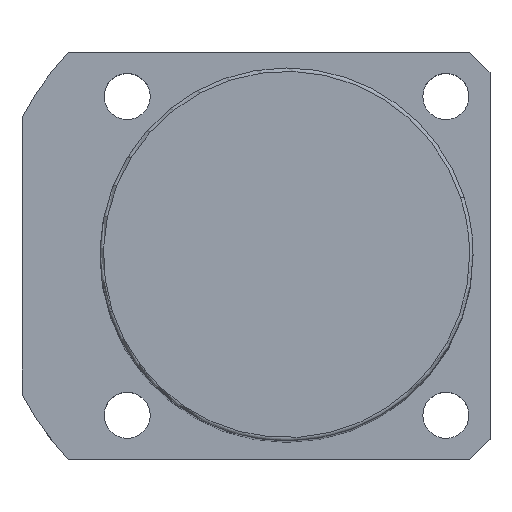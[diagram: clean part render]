
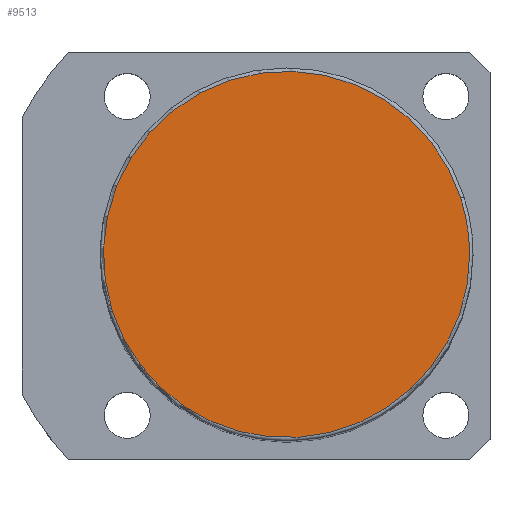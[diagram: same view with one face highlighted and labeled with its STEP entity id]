
A CAD part, top view. The second image highlights one B-rep face of the part: STEP entity #9513.
In plain terms, the highlighted planar face has unit normal (0, 0, 1).
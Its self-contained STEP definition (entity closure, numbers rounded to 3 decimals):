
#9479=CARTESIAN_POINT('',(27.0,0.0,131.0));
#9480=VERTEX_POINT('',#9479);
#9481=CARTESIAN_POINT('',(25.679,8.343,131.0));
#9482=VERTEX_POINT('',#9481);
#9483=CARTESIAN_POINT('',(0.0,0.0,131.0));
#9484=DIRECTION('',(0.0,0.0,1.0));
#9485=DIRECTION('',(1.0,0.0,0.0));
#9486=AXIS2_PLACEMENT_3D('',#9483,#9484,#9485);
#9487=CIRCLE('',#9486,27.0);
#9488=EDGE_CURVE('no 4578',#9480,#9482,#9487,.T.);
#9489=ORIENTED_EDGE('',*,*,#9488,.T.);
#9490=CARTESIAN_POINT('',(-25.679,-8.343,131.0));
#9491=VERTEX_POINT('',#9490);
#9492=CARTESIAN_POINT('',(0.0,0.0,131.0));
#9493=DIRECTION('',(0.0,0.0,1.0));
#9494=DIRECTION('',(1.0,0.0,0.0));
#9495=AXIS2_PLACEMENT_3D('',#9492,#9493,#9494);
#9496=CIRCLE('',#9495,27.0);
#9497=EDGE_CURVE('no 4584',#9482,#9491,#9496,.T.);
#9498=ORIENTED_EDGE('',*,*,#9497,.T.);
#9499=CARTESIAN_POINT('',(0.0,0.0,131.0));
#9500=DIRECTION('',(0.0,0.0,1.0));
#9501=DIRECTION('',(1.0,0.0,0.0));
#9502=AXIS2_PLACEMENT_3D('',#9499,#9500,#9501);
#9503=CIRCLE('',#9502,27.0);
#9504=EDGE_CURVE('no 4588',#9491,#9480,#9503,.T.);
#9505=ORIENTED_EDGE('',*,*,#9504,.T.);
#9506=EDGE_LOOP('',(#9489,#9498,#9505));
#9507=FACE_OUTER_BOUND('',#9506,.T.);
#9508=CARTESIAN_POINT('',(0.0,0.0,131.0));
#9509=DIRECTION('',(0.0,0.0,1.0));
#9510=DIRECTION('',(1.0,0.0,0.0));
#9511=AXIS2_PLACEMENT_3D('',#9508,#9509,#9510);
#9512=PLANE('',#9511);
#9513=ADVANCED_FACE('no 4569',(#9507),#9512,.T.);
